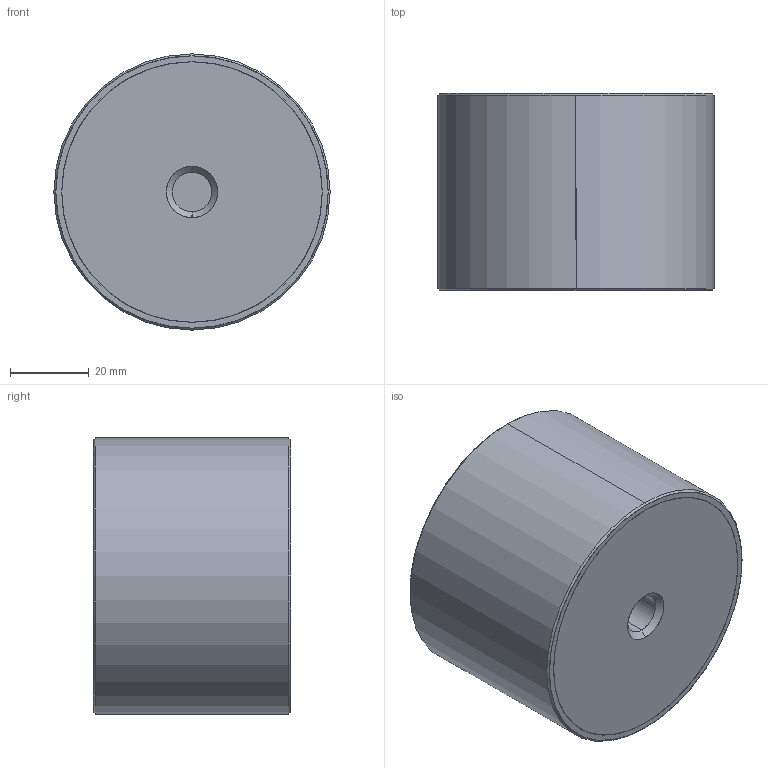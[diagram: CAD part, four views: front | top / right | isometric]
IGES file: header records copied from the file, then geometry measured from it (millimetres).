
Start section: SolidWorks IGES file using analytic representation for surfaces
Global section: file name: E:\WIXROYD 20180701\61080_v2\61080_v2_20180409_IGES\61080.W0702.igs; native system: SolidWorks 2017; preprocessor: SolidWorks 2017; author: liam_; date: 180716.214621; units: millimetre
Bounding box: 70 x 50 x 70 mm (x, y, z)
Surface area: 33756.7 mm2 (no closed solid volume)
Topology: 0 solids, 0 shells, 32 faces, 984 edges, 984 vertices
Faces by surface type: revolution 22, bspline 10
